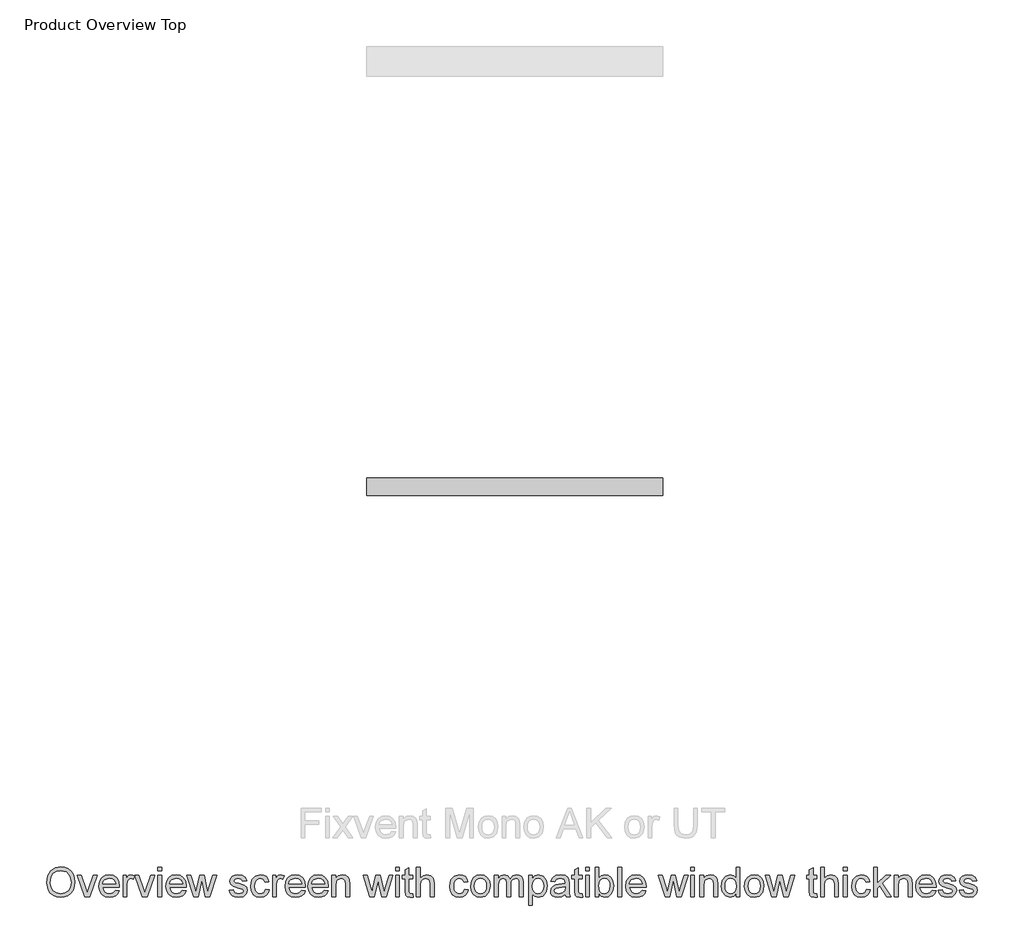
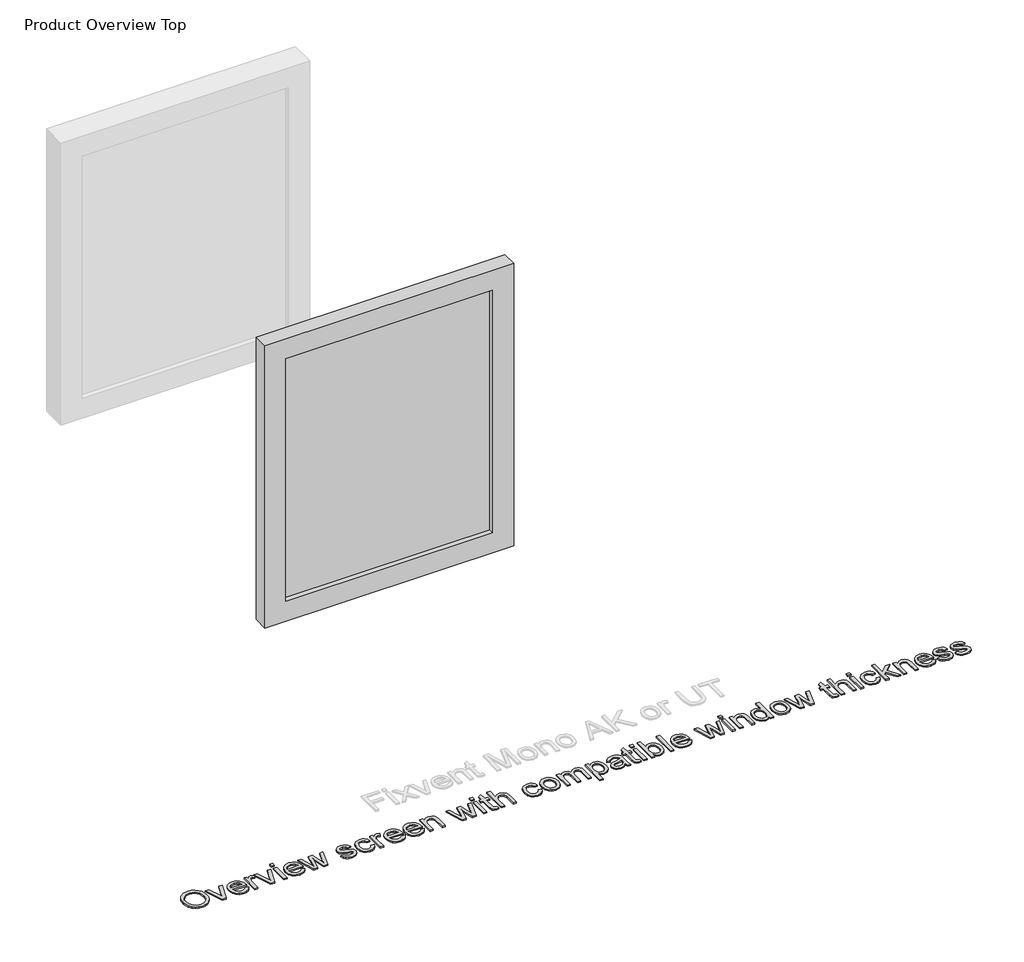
# One storey, part 2 of 3: 2 proxies.
"""IFC4 building model written with IfcOpenShell, lengths in millimetres."""

from ifc_helpers import new_model, si_unit, origin, origin_with_axes, place, context, project, spatial, polyline, outline, extrude, transform, mapped, element, save
from components import l_40027175

model = new_model("IFC4")

# Units and contexts
model_context = context("Model", 3, world=origin())
ifc_project = project(units=[si_unit("LENGTHUNIT", "METRE", prefix="MILLI")], contexts=[model_context])

# Site, building, storey
site = spatial("IfcSite", under=ifc_project)
building = spatial("IfcBuilding", under=site)
storey = spatial("IfcBuildingStorey", under=building, Name="Product Overview Top", Elevation=0.0)

# Proxies
placement = place(None, origin())
element("IfcBuildingElementProxy", 1, Name="100mm Arial", ObjectType="100mm Arial", at=placement, inside=storey, context=model_context, shape_type="SweptSolid", body=[
    extrude(outline(polyline([(-4305.1992481, -2674.9983299), (-4301.8515219, -2652.7843888), (-4291.8083434, -2635.978313), (-4276.4737956, -2625.4017056), (-4257.2519613, -2621.8761698), (-4244.0756546, -2623.5316388), (-4232.2605111, -2628.4980457), (-4222.4503246, -2636.4259027), (-4215.2888884, -2646.9657219), (-4210.9110927, -2659.6085998), (-4209.4518274, -2673.845633), (-4210.9877348, -2688.2727386), (-4215.5954568, -2701.0934261), (-4223.0205417, -2711.6516394), (-4233.0085379, -2719.2913221), (-4244.7225137, -2723.9266353), (-4257.3255377, -2725.4717397), (-4270.7041796, -2723.7641541), (-4282.5867681, -2718.6413973), (-4292.3724292, -2710.5663875), (-4299.4602889, -2700.0020429), (-4305.1992481, -2674.9983299)]), holes=[polyline([(-4292.6422093, -2675.1209573), (-4290.1314147, -2690.8356498), (-4282.5990308, -2702.8102088), (-4271.2774624, -2710.3885779), (-4257.3991141, -2712.9147009), (-4243.3184308, -2710.3640524), (-4231.9784683, -2702.7121069), (-4224.5012667, -2690.369666), (-4222.0088662, -2673.7475311), (-4226.2762974, -2653.0235121), (-4238.747497, -2639.3015137), (-4257.178385, -2634.4332086), (-4270.6857855, -2636.7784563), (-4282.1698352, -2643.8141995), (-4290.0241158, -2656.3313844), (-4292.6422093, -2675.1209573)])]), origin_with_axes(), (0.0, 0.0, 1.0), 5.0),
    extrude(outline(polyline([(-4175.6557348, -2723.9021098), (-4201.6036782, -2650.129507), (-4188.3108755, -2650.129507), (-4172.5900515, -2694.3243974), (-4167.8566365, -2709.18683), (-4163.2213234, -2695.1582633), (-4147.4023976, -2650.129507), (-4134.1095948, -2650.129507), (-4159.7387072, -2723.9021098), (-4175.6557348, -2723.9021098)])), origin_with_axes(), (0.0, 0.0, 1.0), 5.0),
    extrude(outline(polyline([(-4071.4715538, -2701.927292), (-4059.1597697, -2703.4969218), (-4063.5958134, -2712.7736795), (-4070.6744761, -2719.7082551), (-4080.2363423, -2724.0308685), (-4092.1219964, -2725.4717397), (-4106.8556704, -2722.9854705), (-4118.1925672, -2715.5266631), (-4125.4214484, -2703.5796953), (-4127.8310754, -2687.6289451), (-4125.3969229, -2671.1417003), (-4118.0944653, -2658.8115221), (-4106.9108527, -2651.1227884), (-4092.833235, -2648.5598772), (-4079.19401, -2651.1166571), (-4068.2955059, -2658.7869967), (-4061.1493981, -2671.0926494), (-4058.7673622, -2687.5553687), (-4058.8409386, -2690.939883), (-4115.2740367, -2690.939883), (-4113.1004672, -2700.339268), (-4108.0512868, -2707.2493182), (-4100.7641577, -2711.4983552), (-4091.8767418, -2712.9147009), (-4079.5649577, -2710.290476), (-4071.4715538, -2701.927292)]), holes=[polyline([(-4115.2740367, -2678.3828443), (-4071.324401, -2678.3828443), (-4076.3521216, -2667.0030279), (-4083.6729733, -2662.588444), (-4092.8822859, -2661.116916), (-4108.3455924, -2665.8135428), (-4113.2108318, -2671.3041816), (-4115.2740367, -2678.3828443)])]), origin_with_axes(), (0.0, 0.0, 1.0), 5.0),
    extrude(outline(polyline([(-4046.2103234, -2723.9021098), (-4046.2103234, -2650.129507), (-4035.2229145, -2650.129507), (-4035.2229145, -2661.0433396), (-4027.4238162, -2650.9878984), (-4019.575667, -2648.5598772), (-4006.9695773, -2652.4349009), (-4011.163432, -2663.6920899), (-4019.9925999, -2661.116916), (-4027.0927224, -2663.5939881), (-4031.617671, -2670.4611186), (-4033.6532847, -2685.1273475), (-4033.6532847, -2723.9021098), (-4046.2103234, -2723.9021098)])), origin_with_axes(), (0.0, 0.0, 1.0), 5.0),
    extrude(outline(polyline([(-3981.0216339, -2723.9021098), (-4006.9695773, -2650.129507), (-3993.6767745, -2650.129507), (-3977.9559506, -2694.3243974), (-3973.2225356, -2709.18683), (-3968.5872225, -2695.1582633), (-3952.7682967, -2650.129507), (-3939.4754939, -2650.129507), (-3965.1046062, -2723.9021098), (-3981.0216339, -2723.9021098)])), origin_with_axes(), (0.0, 0.0, 1.0), 5.0),
    extrude(outline(polyline([(-3928.488085, -2636.0028384), (-3928.488085, -2623.4457997), (-3915.9310462, -2623.4457997), (-3915.9310462, -2636.0028384), (-3928.488085, -2636.0028384)])), origin_with_axes(), (0.0, 0.0, 1.0), 5.0),
    extrude(outline(polyline([(-3928.488085, -2723.9021098), (-3928.488085, -2650.129507), (-3915.9310462, -2650.129507), (-3915.9310462, -2723.9021098), (-3928.488085, -2723.9021098)])), origin_with_axes(), (0.0, 0.0, 1.0), 5.0),
    extrude(outline(polyline([(-3845.4448559, -2701.927292), (-3833.1330718, -2703.4969218), (-3837.5691156, -2712.7736795), (-3844.6477783, -2719.7082551), (-3854.2096445, -2724.0308685), (-3866.0952986, -2725.4717397), (-3880.8289725, -2722.9854705), (-3892.1658693, -2715.5266631), (-3899.3947505, -2703.5796953), (-3901.8043776, -2687.6289451), (-3899.3702251, -2671.1417003), (-3892.0677675, -2658.8115221), (-3880.8841548, -2651.1227884), (-3866.8065371, -2648.5598772), (-3853.1673122, -2651.1166571), (-3842.2688081, -2658.7869967), (-3835.1227003, -2671.0926494), (-3832.7406644, -2687.5553687), (-3832.8142408, -2690.939883), (-3889.2473388, -2690.939883), (-3887.0737694, -2700.339268), (-3882.024589, -2707.2493182), (-3874.7374598, -2711.4983552), (-3865.8500439, -2712.9147009), (-3853.5382598, -2710.290476), (-3845.4448559, -2701.927292)]), holes=[polyline([(-3889.2473388, -2678.3828443), (-3845.2977032, -2678.3828443), (-3850.3254238, -2667.0030279), (-3857.6462755, -2662.588444), (-3866.8555881, -2661.116916), (-3882.3188946, -2665.8135428), (-3887.184134, -2671.3041816), (-3889.2473388, -2678.3828443)])]), origin_with_axes(), (0.0, 0.0, 1.0), 5.0),
    extrude(outline(polyline([(-3807.9454179, -2723.9021098), (-3830.3862196, -2650.129507), (-3817.3386715, -2650.129507), (-3804.6099545, -2693.1717005), (-3800.8085072, -2708.5491679), (-3797.693773, -2693.7357862), (-3787.5647554, -2650.129507), (-3772.6042209, -2650.129507), (-3762.5242542, -2693.6131589), (-3759.7528765, -2707.028589), (-3755.779751, -2692.8773949), (-3743.0265085, -2650.129507), (-3729.9299095, -2650.129507), (-3752.5423894, -2723.9021098), (-3767.7236531, -2723.9021098), (-3777.3621614, -2680.6391872), (-3780.1580645, -2667.1501807), (-3792.592476, -2723.9021098), (-3807.9454179, -2723.9021098)])), origin_with_axes(), (0.0, 0.0, 1.0), 5.0),
    extrude(outline(polyline([(-3686.7650887, -2701.927292), (-3674.2080499, -2700.3576621), (-3668.3955144, -2709.6773393), (-3655.0781862, -2712.9147009), (-3642.2758927, -2709.9471195), (-3638.1065635, -2702.981887), (-3642.3004182, -2697.3410298), (-3655.225339, -2693.7603117), (-3674.1344735, -2687.6166824), (-3682.387293, -2680.4429835), (-3685.1954588, -2670.3139659), (-3682.9391159, -2660.9575004), (-3676.7832239, -2653.808327), (-3668.8001846, -2650.0927188), (-3657.9967167, -2648.5598772), (-3642.7173511, -2651.0246866), (-3633.0052665, -2657.6956134), (-3628.6887844, -2668.9650652), (-3641.2458232, -2670.534695), (-3645.9669754, -2663.6062508), (-3657.015698, -2661.116916), (-3669.0331765, -2663.4958862), (-3672.6384201, -2669.0386416), (-3671.1423666, -2672.6929361), (-3666.4580026, -2675.4643138), (-3655.6422719, -2678.1375896), (-3637.2113839, -2684.048227), (-3628.6519962, -2690.7436793), (-3625.5495247, -2701.6575118), (-3629.1915565, -2713.6749903), (-3639.7007188, -2722.3937936), (-3655.2498644, -2725.4717397), (-3667.9111364, -2723.9879489), (-3677.1511059, -2719.5365768), (-3683.3192607, -2712.1666742), (-3686.7650887, -2701.927292)])), origin_with_axes(), (0.0, 0.0, 1.0), 5.0),
    extrude(outline(polyline([(-3564.3339607, -2697.2184024), (-3551.7769219, -2698.7880323), (-3555.2779323, -2709.9563165), (-3561.8568886, -2718.3961426), (-3570.8945229, -2723.7028404), (-3581.7715673, -2725.4717397), (-3595.1287494, -2723.0038646), (-3605.5735324, -2715.6002395), (-3612.3149699, -2703.5858266), (-3614.5621158, -2687.2855886), (-3610.7238803, -2666.4266794), (-3599.0252328, -2653.0235121), (-3581.9432455, -2648.5598772), (-3571.3329157, -2650.0927188), (-3562.85017, -2654.6912438), (-3556.7647887, -2662.1101974), (-3553.3465518, -2672.1043249), (-3565.9035905, -2673.6739547), (-3571.7283888, -2664.2684384), (-3581.8451437, -2661.116916), (-3589.9600073, -2662.6681517), (-3596.4010079, -2667.321859), (-3600.6040597, -2675.3294237), (-3602.005077, -2686.942232), (-3600.6347166, -2698.7113902), (-3596.5236353, -2706.7465461), (-3590.1991306, -2711.3726622), (-3582.1885002, -2712.9147009), (-3570.3549627, -2709.0642027), (-3564.3339607, -2697.2184024)])), origin_with_axes(), (0.0, 0.0, 1.0), 5.0),
    extrude(outline(polyline([(-3540.789513, -2723.9021098), (-3540.789513, -2650.129507), (-3529.8021041, -2650.129507), (-3529.8021041, -2661.0433396), (-3522.0030058, -2650.9878984), (-3514.1548566, -2648.5598772), (-3501.5487669, -2652.4349009), (-3505.7426216, -2663.6920899), (-3514.5717895, -2661.116916), (-3521.671912, -2663.5939881), (-3526.1968605, -2670.4611186), (-3528.2324742, -2685.1273475), (-3528.2324742, -2723.9021098), (-3540.789513, -2723.9021098)])), origin_with_axes(), (0.0, 0.0, 1.0), 5.0),
    extrude(outline(polyline([(-3442.0499855, -2701.927292), (-3429.7382014, -2703.4969218), (-3434.1742451, -2712.7736795), (-3441.2529078, -2719.7082551), (-3450.814774, -2724.0308685), (-3462.7004282, -2725.4717397), (-3477.4341021, -2722.9854705), (-3488.7709989, -2715.5266631), (-3495.9998801, -2703.5796953), (-3498.4095072, -2687.6289451), (-3495.9753546, -2671.1417003), (-3488.672897, -2658.8115221), (-3477.4892844, -2651.1227884), (-3463.4116667, -2648.5598772), (-3449.7724417, -2651.1166571), (-3438.8739376, -2658.7869967), (-3431.7278299, -2671.0926494), (-3429.3457939, -2687.5553687), (-3429.4193703, -2690.939883), (-3485.8524684, -2690.939883), (-3483.6788989, -2700.339268), (-3478.6297186, -2707.2493182), (-3471.3425894, -2711.4983552), (-3462.4551735, -2712.9147009), (-3450.1433894, -2710.290476), (-3442.0499855, -2701.927292)]), holes=[polyline([(-3485.8524684, -2678.3828443), (-3441.9028327, -2678.3828443), (-3446.9305533, -2667.0030279), (-3454.251405, -2662.588444), (-3463.4607176, -2661.116916), (-3478.9240242, -2665.8135428), (-3483.7892635, -2671.3041816), (-3485.8524684, -2678.3828443)])]), origin_with_axes(), (0.0, 0.0, 1.0), 5.0),
    extrude(outline(polyline([(-3365.138123, -2701.927292), (-3352.8263389, -2703.4969218), (-3357.2623827, -2712.7736795), (-3364.3410454, -2719.7082551), (-3373.9029116, -2724.0308685), (-3385.7885657, -2725.4717397), (-3400.5222396, -2722.9854705), (-3411.8591364, -2715.5266631), (-3419.0880176, -2703.5796953), (-3421.4976447, -2687.6289451), (-3419.0634922, -2671.1417003), (-3411.7610346, -2658.8115221), (-3400.5774219, -2651.1227884), (-3386.4998042, -2648.5598772), (-3372.8605793, -2651.1166571), (-3361.9620752, -2658.7869967), (-3354.8159674, -2671.0926494), (-3352.4339315, -2687.5553687), (-3352.5075079, -2690.939883), (-3408.9406059, -2690.939883), (-3406.7670365, -2700.339268), (-3401.7178561, -2707.2493182), (-3394.4307269, -2711.4983552), (-3385.543311, -2712.9147009), (-3373.2315269, -2710.290476), (-3365.138123, -2701.927292)]), holes=[polyline([(-3408.9406059, -2678.3828443), (-3364.9909702, -2678.3828443), (-3370.0186908, -2667.0030279), (-3377.3395426, -2662.588444), (-3386.5488552, -2661.116916), (-3402.0121617, -2665.8135428), (-3406.8774011, -2671.3041816), (-3408.9406059, -2678.3828443)])]), origin_with_axes(), (0.0, 0.0, 1.0), 5.0),
    extrude(outline(polyline([(-3339.8768927, -2723.9021098), (-3339.8768927, -2650.129507), (-3327.3198539, -2650.129507), (-3327.3198539, -2660.4302029), (-3317.7181339, -2651.5274586), (-3304.6092721, -2648.5598772), (-3292.7512091, -2650.9511102), (-3284.6578052, -2657.2296296), (-3280.8931462, -2666.4634676), (-3280.2309586, -2678.6035735), (-3280.2309586, -2723.9021098), (-3292.7879973, -2723.9021098), (-3292.7879973, -2680.2958307), (-3294.2349998, -2669.1857944), (-3299.3485596, -2663.3119452), (-3307.969261, -2661.116916), (-3321.5931576, -2666.0465347), (-3325.8881798, -2673.1895768), (-3327.3198539, -2684.7594655), (-3327.3198539, -2723.9021098), (-3339.8768927, -2723.9021098)])), origin_with_axes(), (0.0, 0.0, 1.0), 5.0),
    extrude(outline(polyline([(-3211.4860764, -2723.9021098), (-3233.9268781, -2650.129507), (-3220.87933, -2650.129507), (-3208.150613, -2693.1717005), (-3204.3491657, -2708.5491679), (-3201.2344315, -2693.7357862), (-3191.1054139, -2650.129507), (-3176.1448794, -2650.129507), (-3166.0649127, -2693.6131589), (-3163.293535, -2707.028589), (-3159.3204095, -2692.8773949), (-3146.567167, -2650.129507), (-3133.4705679, -2650.129507), (-3156.0830479, -2723.9021098), (-3171.2643116, -2723.9021098), (-3180.9028199, -2680.6391872), (-3183.698723, -2667.1501807), (-3196.1331345, -2723.9021098), (-3211.4860764, -2723.9021098)])), origin_with_axes(), (0.0, 0.0, 1.0), 5.0),
    extrude(outline(polyline([(-3124.8376038, -2636.0028384), (-3124.8376038, -2623.4457997), (-3112.280565, -2623.4457997), (-3112.280565, -2636.0028384), (-3124.8376038, -2636.0028384)])), origin_with_axes(), (0.0, 0.0, 1.0), 5.0),
    extrude(outline(polyline([(-3124.8376038, -2723.9021098), (-3124.8376038, -2650.129507), (-3112.280565, -2650.129507), (-3112.280565, -2723.9021098), (-3124.8376038, -2723.9021098)])), origin_with_axes(), (0.0, 0.0, 1.0), 5.0),
    extrude(outline(polyline([(-3066.7612995, -2713.4297357), (-3065.1916696, -2724.2699918), (-3074.5849233, -2725.4717397), (-3085.1063483, -2723.387075), (-3090.3547981, -2717.917896), (-3091.875377, -2703.6686001), (-3091.875377, -2662.6865458), (-3101.2931561, -2662.6865458), (-3101.2931561, -2650.129507), (-3091.875377, -2650.129507), (-3091.875377, -2632.2013912), (-3079.3183383, -2624.8192258), (-3079.3183383, -2650.129507), (-3066.7612995, -2650.129507), (-3066.7612995, -2662.6865458), (-3079.3183383, -2662.6865458), (-3079.3183383, -2703.3007181), (-3078.6561507, -2709.7754412), (-3076.5101724, -2712.0685723), (-3072.2304785, -2712.9147009), (-3066.7612995, -2713.4297357)])), origin_with_axes(), (0.0, 0.0, 1.0), 5.0),
    extrude(outline(polyline([(-3054.2042607, -2723.9021098), (-3054.2042607, -2623.4457997), (-3041.647222, -2623.4457997), (-3041.647222, -2660.381152), (-3031.8554295, -2651.5151959), (-3019.7950314, -2648.5598772), (-3005.6928883, -2651.784976), (-2997.1335005, -2660.699983), (-2994.5583266, -2677.2056219), (-2994.5583266, -2723.9021098), (-3007.1153653, -2723.9021098), (-3007.1153653, -2678.5054716), (-3011.1130164, -2665.2617198), (-3022.4437818, -2661.116916), (-3032.7322149, -2663.9128191), (-3039.5993455, -2671.4911882), (-3041.647222, -2684.7104146), (-3041.647222, -2723.9021098), (-3054.2042607, -2723.9021098)])), origin_with_axes(), (0.0, 0.0, 1.0), 5.0),
    extrude(outline(polyline([(-2890.9627567, -2697.2184024), (-2878.405718, -2698.7880323), (-2881.9067283, -2709.9563165), (-2888.4856846, -2718.3961426), (-2897.523319, -2723.7028404), (-2908.4003633, -2725.4717397), (-2921.7575454, -2723.0038646), (-2932.2023284, -2715.6002395), (-2938.943766, -2703.5858266), (-2941.1909118, -2687.2855886), (-2937.3526763, -2666.4266794), (-2925.6540289, -2653.0235121), (-2908.5720416, -2648.5598772), (-2897.9617117, -2650.0927188), (-2889.478966, -2654.6912438), (-2883.3935847, -2662.1101974), (-2879.9753478, -2672.1043249), (-2892.5323866, -2673.6739547), (-2898.3571848, -2664.2684384), (-2908.4739397, -2661.116916), (-2916.5888034, -2662.6681517), (-2923.029804, -2667.321859), (-2927.2328558, -2675.3294237), (-2928.633873, -2686.942232), (-2927.2635126, -2698.7113902), (-2923.1524313, -2706.7465461), (-2916.8279267, -2711.3726622), (-2908.8172962, -2712.9147009), (-2896.9837587, -2709.0642027), (-2890.9627567, -2697.2184024)])), origin_with_axes(), (0.0, 0.0, 1.0), 5.0),
    extrude(outline(polyline([(-2870.5575687, -2687.0158084), (-2867.8413733, -2669.228714), (-2859.6927871, -2656.7268575), (-2849.6250832, -2650.6016223), (-2837.5708165, -2648.5598772), (-2824.3791813, -2651.0461464), (-2813.8424278, -2658.5049538), (-2806.9354433, -2670.3476884), (-2804.6331152, -2685.9857388), (-2808.7043426, -2708.3284387), (-2820.5624056, -2720.9713166), (-2837.5708165, -2725.4717397), (-2850.9218672, -2722.9946676), (-2861.446358, -2715.5634513), (-2868.279766, -2703.4723963), (-2870.5575687, -2687.0158084)]), holes=[polyline([(-2858.00053, -2686.991283), (-2856.5473961, -2698.3557709), (-2852.1879944, -2706.4522405), (-2845.6274322, -2711.2990858), (-2837.5708165, -2712.9147009), (-2829.550989, -2711.2898887), (-2823.0026895, -2706.4154523), (-2818.6432878, -2698.2116838), (-2817.190154, -2686.5988755), (-2818.6524849, -2675.5654813), (-2823.0394777, -2667.5793764), (-2829.5969743, -2662.7325311), (-2837.5708165, -2661.116916), (-2845.6274322, -2662.7263997), (-2852.1879944, -2667.5548509), (-2856.5473961, -2675.6329264), (-2858.00053, -2686.991283)])]), origin_with_axes(), (0.0, 0.0, 1.0), 5.0),
    extrude(outline(polyline([(-2790.5064466, -2723.9021098), (-2790.5064466, -2650.129507), (-2777.9494078, -2650.129507), (-2777.9494078, -2662.2696129), (-2769.3164437, -2652.3245363), (-2757.029185, -2648.5598772), (-2744.4476208, -2652.3981127), (-2737.5314393, -2663.1525297), (-2727.7335155, -2652.2080403), (-2715.3604177, -2648.5598772), (-2705.9211788, -2650.0773904), (-2698.940618, -2654.6299301), (-2694.6272016, -2662.3401236), (-2693.1893961, -2673.3305982), (-2693.1893961, -2723.9021098), (-2705.7464349, -2723.9021098), (-2705.7464349, -2678.7262008), (-2706.9113945, -2668.2415639), (-2711.1297748, -2663.0789533), (-2718.3034737, -2661.116916), (-2730.652046, -2666.1446366), (-2734.340063, -2672.6868047), (-2735.569402, -2682.257868), (-2735.569402, -2723.9021098), (-2748.1264407, -2723.9021098), (-2748.1264407, -2677.3282492), (-2751.0327085, -2665.1636179), (-2760.5608522, -2661.116916), (-2769.8560039, -2663.8147173), (-2776.0364214, -2671.7119174), (-2777.9494078, -2686.6969774), (-2777.9494078, -2723.9021098), (-2790.5064466, -2723.9021098)])), origin_with_axes(), (0.0, 0.0, 1.0), 5.0),
    extrude(outline(polyline([(-2674.353838, -2752.155447), (-2674.353838, -2650.129507), (-2661.7967992, -2650.129507), (-2661.7967992, -2662.4412912), (-2653.1147841, -2652.0302307), (-2641.3916112, -2648.5598772), (-2625.4745835, -2653.4159195), (-2615.0757858, -2667.1011298), (-2611.5686441, -2686.4517227), (-2615.5295069, -2706.795597), (-2627.0319507, -2720.6524855), (-2642.9121901, -2725.4717397), (-2653.8382854, -2722.2466408), (-2661.7967992, -2714.0919233), (-2661.7967992, -2752.155447), (-2674.353838, -2752.155447)]), holes=[polyline([(-2661.7967992, -2687.6044196), (-2660.4387015, -2698.8616087), (-2656.3644084, -2706.7342834), (-2650.3526035, -2711.3695965), (-2643.1819702, -2712.9147009), (-2635.8948411, -2711.3144142), (-2629.729752, -2706.5135542), (-2625.5267002, -2698.3527053), (-2624.1256829, -2686.6724519), (-2625.4929776, -2675.4765765), (-2629.5948619, -2667.4935372), (-2635.5974698, -2662.7110713), (-2642.6669355, -2661.116916), (-2649.7639923, -2662.8122388), (-2655.9965264, -2667.8982074), (-2660.346731, -2676.2154062), (-2661.7967992, -2687.6044196)])]), origin_with_axes(), (0.0, 0.0, 1.0), 5.0),
    extrude(outline(polyline([(-2550.3530801, -2714.4843307), (-2562.5299742, -2722.9946676), (-2575.9821925, -2725.4717397), (-2586.4760264, -2723.9818176), (-2594.2168767, -2719.5120513), (-2598.9901456, -2712.7246285), (-2600.5812352, -2704.2817367), (-2598.1777395, -2694.3489229), (-2591.8624319, -2687.1384358), (-2583.0700522, -2683.0181574), (-2572.2052706, -2681.1296965), (-2550.4266565, -2676.8132144), (-2550.3530801, -2674.0173113), (-2553.8111709, -2664.746685), (-2567.6925848, -2661.116916), (-2580.3967764, -2663.5326744), (-2586.4545666, -2672.1043249), (-2599.0116054, -2670.534695), (-2593.5792146, -2658.2719619), (-2582.6408566, -2651.0860002), (-2566.0739041, -2648.5598772), (-2550.8558522, -2650.7916946), (-2542.2596762, -2656.3957637), (-2538.409178, -2664.9183633), (-2537.7960414, -2675.9057722), (-2537.7960414, -2691.5284942), (-2537.1583792, -2713.3438966), (-2534.6567817, -2723.9021098), (-2547.2138204, -2723.9021098), (-2550.3530801, -2714.4843307)]), holes=[polyline([(-2550.3530801, -2689.3702532), (-2570.6111153, -2693.2207514), (-2581.4145833, -2695.2563651), (-2586.3074138, -2698.5673031), (-2588.0241964, -2703.39882), (-2584.2840628, -2710.1923741), (-2573.3089166, -2712.9147009), (-2560.6047251, -2709.9103313), (-2552.4132193, -2702.6385305), (-2550.4266565, -2692.9264458), (-2550.3530801, -2689.3702532)])]), origin_with_axes(), (0.0, 0.0, 1.0), 5.0),
    extrude(outline(polyline([(-2493.8464057, -2713.4297357), (-2492.2767758, -2724.2699918), (-2501.6700294, -2725.4717397), (-2512.1914545, -2723.387075), (-2517.4399043, -2717.917896), (-2518.9604832, -2703.6686001), (-2518.9604832, -2662.6865458), (-2528.3782623, -2662.6865458), (-2528.3782623, -2650.129507), (-2518.9604832, -2650.129507), (-2518.9604832, -2632.2013912), (-2506.4034444, -2624.8192258), (-2506.4034444, -2650.129507), (-2493.8464057, -2650.129507), (-2493.8464057, -2662.6865458), (-2506.4034444, -2662.6865458), (-2506.4034444, -2703.3007181), (-2505.7412568, -2709.7754412), (-2503.5952785, -2712.0685723), (-2499.3155847, -2712.9147009), (-2493.8464057, -2713.4297357)])), origin_with_axes(), (0.0, 0.0, 1.0), 5.0),
    extrude(outline(polyline([(-2481.2893669, -2723.9021098), (-2481.2893669, -2650.129507), (-2468.7323281, -2650.129507), (-2468.7323281, -2723.9021098), (-2481.2893669, -2723.9021098)])), origin_with_axes(), (0.0, 0.0, 1.0), 5.0),
    extrude(outline(polyline([(-2481.2893669, -2636.0028384), (-2481.2893669, -2623.4457997), (-2468.7323281, -2623.4457997), (-2468.7323281, -2636.0028384), (-2481.2893669, -2636.0028384)])), origin_with_axes(), (0.0, 0.0, 1.0), 5.0),
    extrude(outline(polyline([(-2437.3397312, -2723.9021098), (-2449.89677, -2723.9021098), (-2449.89677, -2623.4457997), (-2437.3397312, -2623.4457997), (-2437.3397312, -2660.699983), (-2428.5473515, -2651.5949037), (-2417.6212563, -2648.5598772), (-2405.039692, -2651.2944667), (-2395.2785564, -2658.9832004), (-2389.2820799, -2670.9393652), (-2387.1115761, -2685.9121624), (-2389.358722, -2702.6753187), (-2396.1001596, -2715.1465183), (-2405.9931195, -2722.8904343), (-2417.6948327, -2725.4717397), (-2428.8600512, -2722.1424076), (-2437.3397312, -2712.1544114), (-2437.3397312, -2723.9021098)]), holes=[polyline([(-2437.3397312, -2686.5007736), (-2433.9061659, -2704.0610075), (-2427.3272096, -2710.7012776), (-2418.7739532, -2712.9147009), (-2411.5266779, -2711.2837574), (-2405.3339976, -2706.3909268), (-2401.0849606, -2698.2668661), (-2399.6686149, -2686.942232), (-2401.0267126, -2675.4520511), (-2405.1010057, -2667.4199608), (-2411.1005479, -2662.6926772), (-2418.2343929, -2661.116916), (-2425.4816682, -2662.7478595), (-2431.6743485, -2667.64069), (-2435.9233855, -2675.6175979), (-2437.3397312, -2686.5007736)])]), origin_with_axes(), (0.0, 0.0, 1.0), 5.0),
    extrude(outline(polyline([(-2372.9849075, -2723.9021098), (-2372.9849075, -2623.4457997), (-2360.4278688, -2623.4457997), (-2360.4278688, -2723.9021098), (-2372.9849075, -2723.9021098)])), origin_with_axes(), (0.0, 0.0, 1.0), 5.0),
    extrude(outline(polyline([(-2289.9416785, -2701.927292), (-2277.6298944, -2703.4969218), (-2282.0659381, -2712.7736795), (-2289.1446008, -2719.7082551), (-2298.706467, -2724.0308685), (-2310.5921211, -2725.4717397), (-2325.325795, -2722.9854705), (-2336.6626919, -2715.5266631), (-2343.8915731, -2703.5796953), (-2346.3012001, -2687.6289451), (-2343.8670476, -2671.1417003), (-2336.56459, -2658.8115221), (-2325.3809773, -2651.1227884), (-2311.3033597, -2648.5598772), (-2297.6641347, -2651.1166571), (-2286.7656306, -2658.7869967), (-2279.6195228, -2671.0926494), (-2277.2374869, -2687.5553687), (-2277.3110633, -2690.939883), (-2333.7441614, -2690.939883), (-2331.5705919, -2700.339268), (-2326.5214115, -2707.2493182), (-2319.2342823, -2711.4983552), (-2310.3468665, -2712.9147009), (-2298.0350824, -2710.290476), (-2289.9416785, -2701.927292)]), holes=[polyline([(-2333.7441614, -2678.3828443), (-2289.7945257, -2678.3828443), (-2294.8222463, -2667.0030279), (-2302.143098, -2662.588444), (-2311.3524106, -2661.116916), (-2326.8157171, -2665.8135428), (-2331.6809565, -2671.3041816), (-2333.7441614, -2678.3828443)])]), origin_with_axes(), (0.0, 0.0, 1.0), 5.0),
    extrude(outline(polyline([(-2213.2014943, -2723.9021098), (-2235.642296, -2650.129507), (-2222.5947479, -2650.129507), (-2209.8660309, -2693.1717005), (-2206.0645836, -2708.5491679), (-2202.9498493, -2693.7357862), (-2192.8208317, -2650.129507), (-2177.8602973, -2650.129507), (-2167.7803306, -2693.6131589), (-2165.0089529, -2707.028589), (-2161.0358274, -2692.8773949), (-2148.2825849, -2650.129507), (-2135.1859858, -2650.129507), (-2157.7984658, -2723.9021098), (-2172.9797295, -2723.9021098), (-2182.6182377, -2680.6391872), (-2185.4141409, -2667.1501807), (-2197.8485523, -2723.9021098), (-2213.2014943, -2723.9021098)])), origin_with_axes(), (0.0, 0.0, 1.0), 5.0),
    extrude(outline(polyline([(-2126.5530217, -2723.9021098), (-2126.5530217, -2650.129507), (-2113.9959829, -2650.129507), (-2113.9959829, -2723.9021098), (-2126.5530217, -2723.9021098)])), origin_with_axes(), (0.0, 0.0, 1.0), 5.0),
    extrude(outline(polyline([(-2126.5530217, -2636.0028384), (-2126.5530217, -2623.4457997), (-2113.9959829, -2623.4457997), (-2113.9959829, -2636.0028384), (-2126.5530217, -2636.0028384)])), origin_with_axes(), (0.0, 0.0, 1.0), 5.0),
    extrude(outline(polyline([(-2095.1604248, -2723.9021098), (-2095.1604248, -2650.129507), (-2082.603386, -2650.129507), (-2082.603386, -2660.4302029), (-2073.0016659, -2651.5274586), (-2059.8928042, -2648.5598772), (-2048.0347412, -2650.9511102), (-2039.9413373, -2657.2296296), (-2036.1766782, -2666.4634676), (-2035.5144906, -2678.6035735), (-2035.5144906, -2723.9021098), (-2048.0715294, -2723.9021098), (-2048.0715294, -2680.2958307), (-2049.5185319, -2669.1857944), (-2054.6320916, -2663.3119452), (-2063.252793, -2661.116916), (-2076.8766896, -2666.0465347), (-2081.1717119, -2673.1895768), (-2082.603386, -2684.7594655), (-2082.603386, -2723.9021098), (-2095.1604248, -2723.9021098)])), origin_with_axes(), (0.0, 0.0, 1.0), 5.0),
    extrude(outline(polyline([(-1972.7292968, -2723.9021098), (-1972.7292968, -2712.0563096), (-1981.0372985, -2722.1178821), (-1992.5213481, -2725.4717397), (-2008.0704938, -2720.6156973), (-2019.0579027, -2707.0653772), (-2022.9574518, -2687.0893848), (-2019.364471, -2667.1011298), (-2008.5977913, -2653.3423431), (-1992.570399, -2648.5598772), (-1980.9943789, -2651.9811798), (-1972.7292968, -2660.8716613), (-1972.7292968, -2623.4457997), (-1960.172258, -2623.4457997), (-1960.172258, -2723.9021098), (-1972.7292968, -2723.9021098)]), holes=[polyline([(-2010.4004131, -2687.0403339), (-2008.9840674, -2698.3986905), (-2004.7350303, -2706.476766), (-1998.5607442, -2711.3052172), (-1991.3686512, -2712.9147009), (-1984.1796239, -2711.3787936), (-1978.1616876, -2706.7710716), (-1974.0873945, -2699.0056958), (-1972.7292968, -2687.9968271), (-1974.1119199, -2675.9609545), (-1978.2597894, -2667.6161646), (-1984.4310099, -2662.7417281), (-1991.883686, -2661.116916), (-1999.1493554, -2662.6773488), (-2005.1029123, -2667.3586472), (-2009.0760379, -2675.3999344), (-2010.4004131, -2687.0403339)])]), origin_with_axes(), (0.0, 0.0, 1.0), 5.0),
    extrude(outline(polyline([(-1944.4759595, -2687.0158084), (-1941.7597641, -2669.228714), (-1933.6111779, -2656.7268575), (-1923.543474, -2650.6016223), (-1911.4892073, -2648.5598772), (-1898.2975721, -2651.0461464), (-1887.7608186, -2658.5049538), (-1880.8538342, -2670.3476884), (-1878.551506, -2685.9857388), (-1882.6227334, -2708.3284387), (-1894.4807964, -2720.9713166), (-1911.4892073, -2725.4717397), (-1924.840258, -2722.9946676), (-1935.3647488, -2715.5634513), (-1942.1981569, -2703.4723963), (-1944.4759595, -2687.0158084)]), holes=[polyline([(-1931.9189208, -2686.991283), (-1930.4657869, -2698.3557709), (-1926.1063852, -2706.4522405), (-1919.545823, -2711.2990858), (-1911.4892073, -2712.9147009), (-1903.4693798, -2711.2898887), (-1896.9210803, -2706.4154523), (-1892.5616787, -2698.2116838), (-1891.1085448, -2686.5988755), (-1892.5708757, -2675.5654813), (-1896.9578685, -2667.5793764), (-1903.5153651, -2662.7325311), (-1911.4892073, -2661.116916), (-1919.545823, -2662.7263997), (-1926.1063852, -2667.5548509), (-1930.4657869, -2675.6329264), (-1931.9189208, -2686.991283)])]), origin_with_axes(), (0.0, 0.0, 1.0), 5.0),
    extrude(outline(polyline([(-1852.1866297, -2723.9021098), (-1874.6274314, -2650.129507), (-1861.5798833, -2650.129507), (-1848.8511663, -2693.1717005), (-1845.049719, -2708.5491679), (-1841.9349847, -2693.7357862), (-1831.8059671, -2650.129507), (-1816.8454327, -2650.129507), (-1806.765466, -2693.6131589), (-1803.9940883, -2707.028589), (-1800.0209628, -2692.8773949), (-1787.2677203, -2650.129507), (-1774.1711212, -2650.129507), (-1796.7836012, -2723.9021098), (-1811.9648649, -2723.9021098), (-1821.6033731, -2680.6391872), (-1824.3992763, -2667.1501807), (-1836.8336877, -2723.9021098), (-1852.1866297, -2723.9021098)])), origin_with_axes(), (0.0, 0.0, 1.0), 5.0),
    extrude(outline(polyline([(-1699.6137035, -2713.4297357), (-1698.0440737, -2724.2699918), (-1707.4373273, -2725.4717397), (-1717.9587524, -2723.387075), (-1723.2072022, -2717.917896), (-1724.7277811, -2703.6686001), (-1724.7277811, -2662.6865458), (-1734.1455602, -2662.6865458), (-1734.1455602, -2650.129507), (-1724.7277811, -2650.129507), (-1724.7277811, -2632.2013912), (-1712.1707423, -2624.8192258), (-1712.1707423, -2650.129507), (-1699.6137035, -2650.129507), (-1699.6137035, -2662.6865458), (-1712.1707423, -2662.6865458), (-1712.1707423, -2703.3007181), (-1711.5085547, -2709.7754412), (-1709.3625764, -2712.0685723), (-1705.0828825, -2712.9147009), (-1699.6137035, -2713.4297357)])), origin_with_axes(), (0.0, 0.0, 1.0), 5.0),
    extrude(outline(polyline([(-1687.0566648, -2723.9021098), (-1687.0566648, -2623.4457997), (-1674.499626, -2623.4457997), (-1674.499626, -2660.381152), (-1664.7078336, -2651.5151959), (-1652.6474355, -2648.5598772), (-1638.5452923, -2651.784976), (-1629.9859046, -2660.699983), (-1627.4107306, -2677.2056219), (-1627.4107306, -2723.9021098), (-1639.9677694, -2723.9021098), (-1639.9677694, -2678.5054716), (-1643.9654204, -2665.2617198), (-1655.2961859, -2661.116916), (-1665.584619, -2663.9128191), (-1672.4517496, -2671.4911882), (-1674.499626, -2684.7104146), (-1674.499626, -2723.9021098), (-1687.0566648, -2723.9021098)])), origin_with_axes(), (0.0, 0.0, 1.0), 5.0),
    extrude(outline(polyline([(-1610.1448023, -2723.9021098), (-1610.1448023, -2650.129507), (-1597.5877636, -2650.129507), (-1597.5877636, -2723.9021098), (-1610.1448023, -2723.9021098)])), origin_with_axes(), (0.0, 0.0, 1.0), 5.0),
    extrude(outline(polyline([(-1610.1448023, -2636.0028384), (-1610.1448023, -2623.4457997), (-1597.5877636, -2623.4457997), (-1597.5877636, -2636.0028384), (-1610.1448023, -2636.0028384)])), origin_with_axes(), (0.0, 0.0, 1.0), 5.0),
    extrude(outline(polyline([(-1531.66331, -2697.2184024), (-1519.1062712, -2698.7880323), (-1522.6072816, -2709.9563165), (-1529.1862379, -2718.3961426), (-1538.2238723, -2723.7028404), (-1549.1009166, -2725.4717397), (-1562.4580987, -2723.0038646), (-1572.9028817, -2715.6002395), (-1579.6443192, -2703.5858266), (-1581.8914651, -2687.2855886), (-1578.0532296, -2666.4266794), (-1566.3545822, -2653.0235121), (-1549.2725949, -2648.5598772), (-1538.662265, -2650.0927188), (-1530.1795193, -2654.6912438), (-1524.094138, -2662.1101974), (-1520.6759011, -2672.1043249), (-1533.2329399, -2673.6739547), (-1539.0577381, -2664.2684384), (-1549.174493, -2661.116916), (-1557.2893567, -2662.6681517), (-1563.7303573, -2667.321859), (-1567.9334091, -2675.3294237), (-1569.3344263, -2686.942232), (-1567.9640659, -2698.7113902), (-1563.8529846, -2706.7465461), (-1557.52848, -2711.3726622), (-1549.5178495, -2712.9147009), (-1537.684312, -2709.0642027), (-1531.66331, -2697.2184024)])), origin_with_axes(), (0.0, 0.0, 1.0), 5.0),
    extrude(outline(polyline([(-1508.1188623, -2723.9021098), (-1508.1188623, -2623.4457997), (-1495.5618236, -2623.4457997), (-1495.5618236, -2677.4263511), (-1467.4065882, -2650.129507), (-1450.042558, -2650.129507), (-1478.5411499, -2677.7697076), (-1448.4729282, -2723.9021098), (-1463.139157, -2723.9021098), (-1487.5419961, -2686.5007736), (-1495.5618236, -2694.2753465), (-1495.5618236, -2723.9021098), (-1508.1188623, -2723.9021098)])), origin_with_axes(), (0.0, 0.0, 1.0), 5.0),
    extrude(outline(polyline([(-1437.4855193, -2723.9021098), (-1437.4855193, -2650.129507), (-1424.9284805, -2650.129507), (-1424.9284805, -2660.4302029), (-1415.3267604, -2651.5274586), (-1402.2178986, -2648.5598772), (-1390.3598357, -2650.9511102), (-1382.2664318, -2657.2296296), (-1378.5017727, -2666.4634676), (-1377.8395851, -2678.6035735), (-1377.8395851, -2723.9021098), (-1390.3966239, -2723.9021098), (-1390.3966239, -2680.2958307), (-1391.8436264, -2669.1857944), (-1396.9571861, -2663.3119452), (-1405.5778875, -2661.116916), (-1419.2017841, -2666.0465347), (-1423.4968064, -2673.1895768), (-1424.9284805, -2684.7594655), (-1424.9284805, -2723.9021098), (-1437.4855193, -2723.9021098)])), origin_with_axes(), (0.0, 0.0, 1.0), 5.0),
    extrude(outline(polyline([(-1308.9230247, -2701.927292), (-1296.6112406, -2703.4969218), (-1301.0472843, -2712.7736795), (-1308.125947, -2719.7082551), (-1317.6878132, -2724.0308685), (-1329.5734673, -2725.4717397), (-1344.3071412, -2722.9854705), (-1355.6440381, -2715.5266631), (-1362.8729193, -2703.5796953), (-1365.2825463, -2687.6289451), (-1362.8483938, -2671.1417003), (-1355.5459362, -2658.8115221), (-1344.3623235, -2651.1227884), (-1330.2847059, -2648.5598772), (-1316.6454809, -2651.1166571), (-1305.7469768, -2658.7869967), (-1298.600869, -2671.0926494), (-1296.2188331, -2687.5553687), (-1296.2924095, -2690.939883), (-1352.7255076, -2690.939883), (-1350.5519381, -2700.339268), (-1345.5027577, -2707.2493182), (-1338.2156285, -2711.4983552), (-1329.3282127, -2712.9147009), (-1317.0164286, -2710.290476), (-1308.9230247, -2701.927292)]), holes=[polyline([(-1352.7255076, -2678.3828443), (-1308.7758719, -2678.3828443), (-1313.8035925, -2667.0030279), (-1321.1244442, -2662.588444), (-1330.3337568, -2661.116916), (-1345.7970633, -2665.8135428), (-1350.6623027, -2671.3041816), (-1352.7255076, -2678.3828443)])]), origin_with_axes(), (0.0, 0.0, 1.0), 5.0),
    extrude(outline(polyline([(-1288.3706839, -2701.927292), (-1275.8136451, -2700.3576621), (-1270.0011096, -2709.6773393), (-1256.6837814, -2712.9147009), (-1243.8814879, -2709.9471195), (-1239.7121586, -2702.981887), (-1243.9060134, -2697.3410298), (-1256.8309342, -2693.7603117), (-1275.7400687, -2687.6166824), (-1283.9928881, -2680.4429835), (-1286.801054, -2670.3139659), (-1284.5447111, -2660.9575004), (-1278.3888191, -2653.808327), (-1270.4057798, -2650.0927188), (-1259.6023119, -2648.5598772), (-1244.3229463, -2651.0246866), (-1234.6108616, -2657.6956134), (-1230.2943796, -2668.9650652), (-1242.8514183, -2670.534695), (-1247.5725706, -2663.6062508), (-1258.6212932, -2661.116916), (-1270.6387717, -2663.4958862), (-1274.2440153, -2669.0386416), (-1272.7479618, -2672.6929361), (-1268.0635977, -2675.4643138), (-1257.2478671, -2678.1375896), (-1238.8169791, -2684.048227), (-1230.2575914, -2690.7436793), (-1227.1551199, -2701.6575118), (-1230.7971516, -2713.6749903), (-1241.306314, -2722.3937936), (-1256.8554596, -2725.4717397), (-1269.5167316, -2723.9879489), (-1278.7567011, -2719.5365768), (-1284.9248559, -2712.1666742), (-1288.3706839, -2701.927292)])), origin_with_axes(), (0.0, 0.0, 1.0), 5.0),
    extrude(outline(polyline([(-1217.7373408, -2701.927292), (-1205.180302, -2700.3576621), (-1199.3677665, -2709.6773393), (-1186.0504383, -2712.9147009), (-1173.2481448, -2709.9471195), (-1169.0788156, -2702.981887), (-1173.2726703, -2697.3410298), (-1186.1975911, -2693.7603117), (-1205.1067256, -2687.6166824), (-1213.3595451, -2680.4429835), (-1216.167711, -2670.3139659), (-1213.9113681, -2660.9575004), (-1207.755476, -2653.808327), (-1199.7724367, -2650.0927188), (-1188.9689688, -2648.5598772), (-1173.6896032, -2651.0246866), (-1163.9775186, -2657.6956134), (-1159.6610365, -2668.9650652), (-1172.2180753, -2670.534695), (-1176.9392275, -2663.6062508), (-1187.9879501, -2661.116916), (-1200.0054286, -2663.4958862), (-1203.6106722, -2669.0386416), (-1202.1146187, -2672.6929361), (-1197.4302547, -2675.4643138), (-1186.614524, -2678.1375896), (-1168.183636, -2684.048227), (-1159.6242483, -2690.7436793), (-1156.5217768, -2701.6575118), (-1160.1638086, -2713.6749903), (-1170.6729709, -2722.3937936), (-1186.2221165, -2725.4717397), (-1198.8833885, -2723.9879489), (-1208.123358, -2719.5365768), (-1214.2915128, -2712.1666742), (-1217.7373408, -2701.927292)])), origin_with_axes(), (0.0, 0.0, 1.0), 5.0),
])
l_shape = l_40027175(model_context)
element("IfcBuildingElementProxy", 2, Name="Renson_Fixvent_Window_SimpleFrame_Gen : S", ObjectType="Renson_Fixvent_Window_SimpleFrame_Gen : S", at=placement, inside=storey, context=model_context, shape_type="MappedRepresentation", body=[
    mapped(l_shape, transform((-2721.5461115, -1365.8483767, -855.0), x_axis=(1.0, 0.0, 0.0), y_axis=(0.0, 1.0, 0.0), z_axis=(0.0, 0.0, 1.0))),
])

save(model, "model.ifc")
